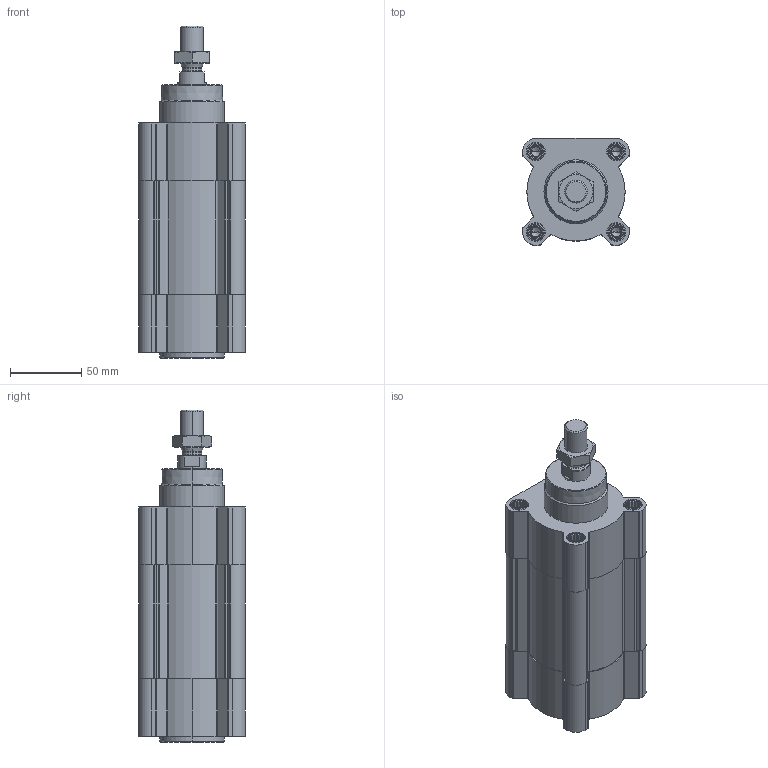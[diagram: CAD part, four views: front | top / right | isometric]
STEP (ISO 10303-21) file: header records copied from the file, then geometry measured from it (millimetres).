
FILE_DESCRIPTION (( 'STEP AP203' ), '1' );
FILE_NAME ('CPME63-40.STEP', '2023-07-11T12:25:01', ( '' ), ( '' ), 'SwSTEP 2.0', 'SolidWorks 2019', '' );
FILE_SCHEMA (( 'CONFIG_CONTROL_DESIGN' ));
Length unit declared in the file: millimetre
Products named in the file (1): CPME63-40
Bounding box: 75 x 75 x 233.1 mm (x, y, z)
Volume: 693385.2 mm3; surface area: 133421.3 mm2
Topology: 3 solids, 3 shells, 639 faces, 1655 edges, 1050 vertices
Faces by surface type: plane 325, cylinder 200, cone 106, torus 8
Entity records: 19989 total; most frequent: CARTESIAN_POINT 4403, ORIENTED_EDGE 3278, DIRECTION 3187, EDGE_CURVE 1639, AXIS2_PLACEMENT_3D 1131, VERTEX_POINT 1050, VECTOR 925, LINE 925
